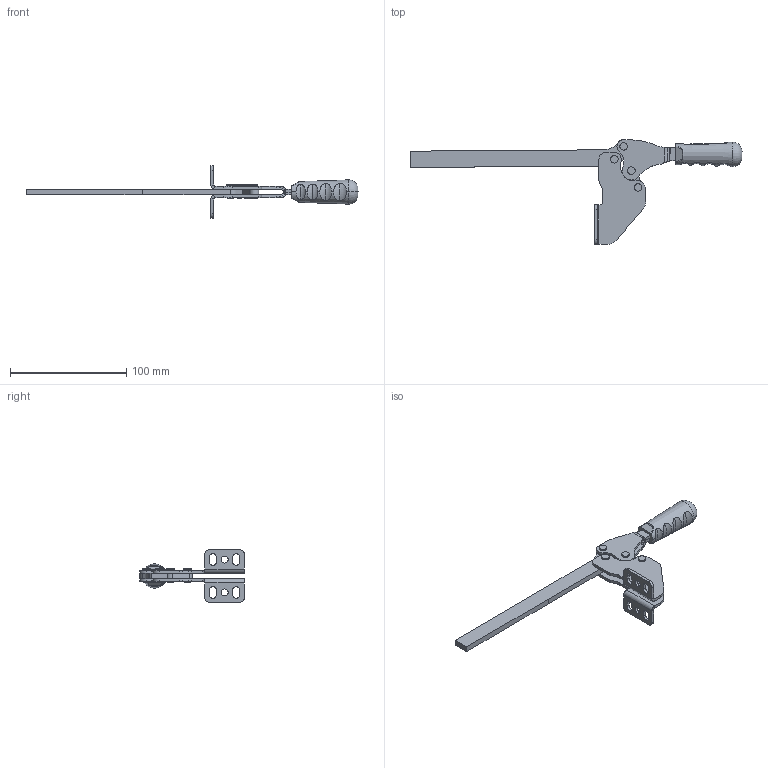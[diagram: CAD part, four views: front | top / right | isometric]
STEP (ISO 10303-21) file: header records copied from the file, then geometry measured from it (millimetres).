
FILE_DESCRIPTION (( 'STEP AP203' ), '1' );
FILE_NAME ('1262_A_L_MONTAJ.STEP', '2022-04-26T13:53:19', ( '' ), ( '' ), 'SwSTEP 2.0', 'SolidWorks 2020', '' );
FILE_SCHEMA (( 'CONFIG_CONTROL_DESIGN' ));
Length unit declared in the file: millimetre
Products named in the file (9): Aynalama1262 A Gövde; 1262-L3 Lama Baský Kolu; Aynalama1262 Hareket Kolu; 1262 Mafsal; 1262 A Gövde; 4x12_5_PERﾇﾝN; C55_Yeni_Tutamak; 1262_A_L_MONTAJ; 1262 Hareket Kolu
Assembly tree (11 placements, depth 2):
  1262_A_L_MONTAJ
    1262 Hareket Kolu
    1262 Mafsal
    Aynalama1262 Hareket Kolu
    4x12_5_PERﾇﾝN  x4
    1262-L3 Lama Baský Kolu
    1262 A Gövde
    C55_Yeni_Tutamak
    Aynalama1262 A Gövde
Bounding box: 285.91 x 90.13 x 45 mm (x, y, z)
Volume: 49104.4 mm3; surface area: 35334.8 mm2
Topology: 11 solids, 11 shells, 640 faces, 1660 edges, 1066 vertices
Faces by surface type: plane 377, cylinder 190, bspline 37, torus 34, cone 2
Entity records: 18009 total; most frequent: CARTESIAN_POINT 5355, ORIENTED_EDGE 2480, DIRECTION 2322, EDGE_CURVE 1240, VERTEX_POINT 802, VECTOR 796, LINE 796, AXIS2_PLACEMENT_3D 763
